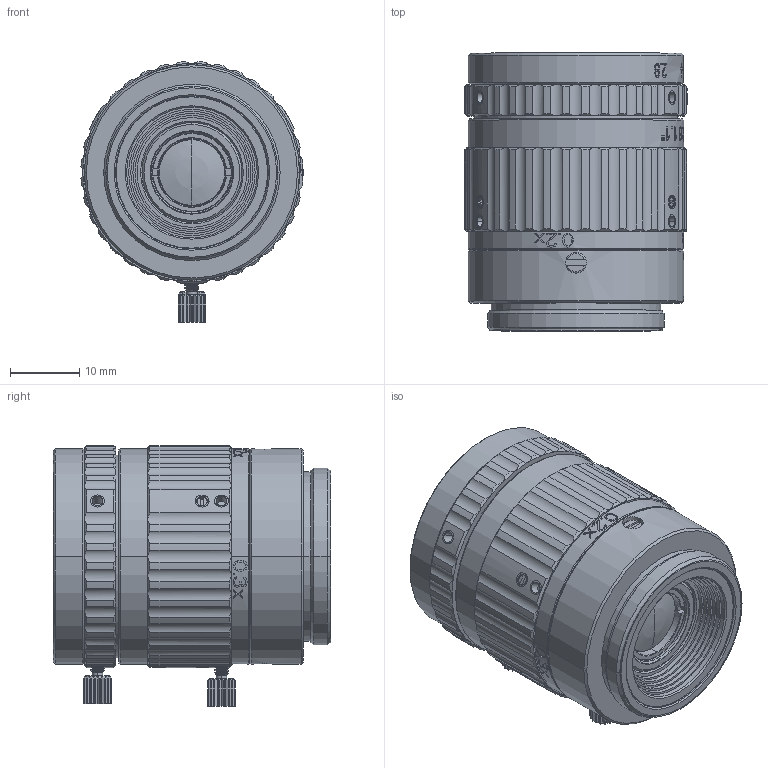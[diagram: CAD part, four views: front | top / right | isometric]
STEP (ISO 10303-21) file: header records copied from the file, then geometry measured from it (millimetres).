
FILE_DESCRIPTION((''),'2;1');
FILE_NAME('ML2510A-200_ASM','2023-12-11T15:05:41',('user'),(''),'CREO PARAMETRIC BY PTC INC, 2022073','CREO PARAMETRIC BY PTC INC, 2022073','');
FILE_SCHEMA(('CONFIG_CONTROL_DESIGN'));
Products named in the file (77): 505_AF0; 502_AF0; 601_AF0; 513_AF0; MA063-02-02_AF0; MB1850-02-03________AF0; MB1850-02-03________AF1; MA063-01-01_AF0_ASM; MA063-02-05_AF0; MA063-02-02_AF1; MB1850-02-03________AF2; MB1850-02-03________AF3; MA063-01-01_AF1_ASM; MA063-02-02_AF2; MB1850-02-03________AF4; MB1850-02-03________AF5; MA063-01-01_AF2_ASM; MA063-02-02_AF3; MB1850-02-03________AF6; MB1850-02-03________AF7; MA063-01-01_AF3_ASM; MA063-02-02_AF4; MB1850-02-03________AF8; MB1850-02-03________AF9; MA063-01-01_AF4_ASM; MA063-02-02_AF5; MB1850-02-03________AF10; MB1850-02-03________AF11; MA063-01-01_AF5_ASM; MA063-02-02_AF6; MB1850-02-03________AF12; MB1850-02-03________AF13; MA063-01-01_AF6_ASM; MA063-02-04_AF0; MA063-02-02_AF7; MB1850-02-03________AF14; MB1850-02-03________AF15; MA063-01-01_AF7_ASM; MA063-02-02_AF8; MB1850-02-03________AF16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
Assembly tree (76 placements, depth 6):
  ML2510A-200_ASM
    505_AF0
    ML2510A-202_AF0_ASM
      502_AF0
      601_AF0
      513_AF0
      MA063-00-01_AF0_ASM
        ASM0001_AF0_ASM
          MA063-01-01_AF0_ASM
            MA063-02-02_AF0
            MB1850-02-03________AF0
            MB1850-02-03________AF1
          MA063-02-05_AF0
          MA063-01-01_AF1_ASM
            MA063-02-02_AF1
            MB1850-02-03________AF2
            MB1850-02-03________AF3
          MA063-01-01_AF2_ASM
            MA063-02-02_AF2
            MB1850-02-03________AF4
            MB1850-02-03________AF5
          MA063-01-01_AF3_ASM
            MA063-02-02_AF3
            MB1850-02-03________AF6
            MB1850-02-03________AF7
          MA063-01-01_AF4_ASM
            MA063-02-02_AF4
            MB1850-02-03________AF8
            MB1850-02-03________AF9
          MA063-01-01_AF5_ASM
            MA063-02-02_AF5
            MB1850-02-03________AF10
            MB1850-02-03________AF11
          MA063-01-01_AF6_ASM
            MA063-02-02_AF6
            MB1850-02-03________AF12
            MB1850-02-03________AF13
          MA063-02-04_AF0
          MA063-01-01_AF7_ASM
            MA063-02-02_AF7
            MB1850-02-03________AF14
            MB1850-02-03________AF15
          MA063-01-01_AF8_ASM
            MA063-02-02_AF8
            MB1850-02-03________AF16
            MB1850-02-03________AF17
          MA063-02-01_AF0
        _MA063-00-01
        MA063-02-05_AF1
      JD20202001-01_AF0
      JD20202001-01_AF1
      ML3510A-551_AF0
    ML2510A-201_AF0_ASM
      501_AF0
      303_AF0
      302_AF0
      512_AF0
      301_AF0
      511_AF0
      515_AF0
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Bounding box: 31.98 x 40 x 37.58 mm (x, y, z)
Volume: 9037.9 mm3; surface area: 22452.4 mm2
Topology: 28 solids, 61 shells, 1954 faces, 5070 edges, 3264 vertices
Faces by surface type: bspline 594, cylinder 544, plane 474, cone 313, torus 23, sphere 6
Entity records: 84949 total; most frequent: CARTESIAN_POINT 39492, ORIENTED_EDGE 10002, DIRECTION 7778, EDGE_CURVE 5064, VERTEX_POINT 3264, AXIS2_PLACEMENT_3D 2902, EDGE_LOOP 2105, VECTOR 1974
